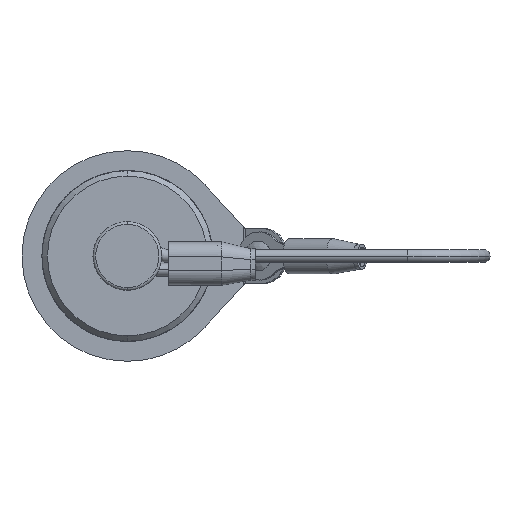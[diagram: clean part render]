
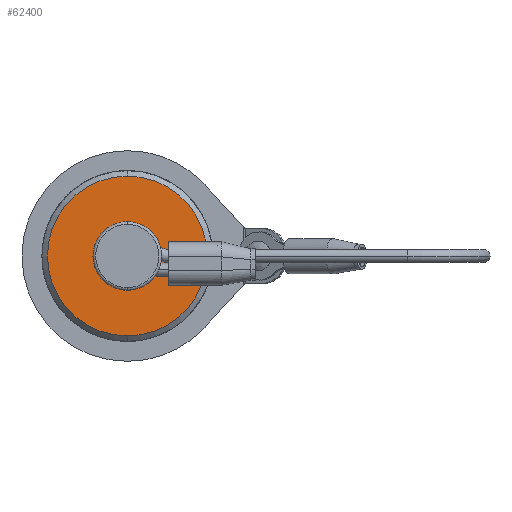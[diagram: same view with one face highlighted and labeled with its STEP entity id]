
A CAD part, left-side view. The second image highlights one B-rep face of the part: STEP entity #62400.
In plain terms, the highlighted planar face has unit normal (-1, 0, 0).
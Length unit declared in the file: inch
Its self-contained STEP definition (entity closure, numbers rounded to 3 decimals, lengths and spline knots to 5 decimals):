
#6622 = AXIS2_PLACEMENT_3D ( 'NONE', #63748, #22317, #46163 ) ;
#8765 = AXIS2_PLACEMENT_3D ( 'NONE', #36476, #30218, #54056 ) ;
#12456 = CARTESIAN_POINT ( 'NONE',  ( 0.25, 0., 0.25 ) ) ;
#13628 = CARTESIAN_POINT ( 'NONE',  ( 0.25, 0.5805, 0. ) ) ;
#14184 = CIRCLE ( 'NONE', #65365, 0.25 ) ;
#14334 = DIRECTION ( 'NONE',  ( 0., 0., -1. ) ) ;
#19435 = AXIS2_PLACEMENT_3D ( 'NONE', #13628, #23811, #54720 ) ;
#20607 = CARTESIAN_POINT ( 'NONE',  ( 0.25, 0., -0.25 ) ) ;
#20931 = DIRECTION ( 'NONE',  ( 1., 0., 0. ) ) ;
#22317 = DIRECTION ( 'NONE',  ( 1., 0., 0. ) ) ;
#23363 = ORIENTED_EDGE ( 'NONE', *, *, #37333, .F. ) ;
#23811 = DIRECTION ( 'NONE',  ( -1., 0., 0. ) ) ;
#25361 = FACE_OUTER_BOUND ( 'NONE', #64044, .T. ) ;
#29636 = CARTESIAN_POINT ( 'NONE',  ( 0.25, 0., 0. ) ) ;
#30143 = VERTEX_POINT ( 'NONE', #12456 ) ;
#30218 = DIRECTION ( 'NONE',  ( 1., 0., 0. ) ) ;
#30623 = EDGE_CURVE ( 'NONE', #30143, #39035, #14184, .T. ) ;
#32677 = CARTESIAN_POINT ( 'NONE',  ( 0.25, 0., 0. ) ) ;
#36323 = CIRCLE ( 'NONE', #57523, 0.25 ) ;
#36476 = CARTESIAN_POINT ( 'NONE',  ( 0.25, 0., 0. ) ) ;
#37333 = EDGE_CURVE ( 'NONE', #39831, #53462, #58713, .T. ) ;
#39035 = VERTEX_POINT ( 'NONE', #20607 ) ;
#39831 = VERTEX_POINT ( 'NONE', #56325 ) ;
#41815 = PLANE ( 'NONE',  #19435 ) ;
#45109 = ORIENTED_EDGE ( 'NONE', *, *, #30623, .T. ) ;
#46163 = DIRECTION ( 'NONE',  ( 0., 0., -1. ) ) ;
#48532 = ORIENTED_EDGE ( 'NONE', *, *, #57331, .F. ) ;
#51031 = DIRECTION ( 'NONE',  ( 0., 0., -1. ) ) ;
#53185 = EDGE_CURVE ( 'NONE', #39035, #30143, #36323, .T. ) ;
#53462 = VERTEX_POINT ( 'NONE', #63939 ) ;
#53468 = DIRECTION ( 'NONE',  ( 1., 0., 0. ) ) ;
#54056 = DIRECTION ( 'NONE',  ( 0., 0., -1. ) ) ;
#54720 = DIRECTION ( 'NONE',  ( 0., 0., 1. ) ) ;
#55305 = CIRCLE ( 'NONE', #6622, 0.5805 ) ;
#56325 = CARTESIAN_POINT ( 'NONE',  ( 0.25, 0., -0.5805 ) ) ;
#57331 = EDGE_CURVE ( 'NONE', #53462, #39831, #55305, .T. ) ;
#57523 = AXIS2_PLACEMENT_3D ( 'NONE', #29636, #53468, #14334 ) ;
#58713 = CIRCLE ( 'NONE', #8765, 0.5805 ) ;
#61076 = ORIENTED_EDGE ( 'NONE', *, *, #53185, .T. ) ;
#61771 = EDGE_LOOP ( 'NONE', ( #61076, #45109 ) ) ;
#62400 = ADVANCED_FACE ( 'NONE', ( #77362, #25361 ), #41815, .T. ) ;
#63748 = CARTESIAN_POINT ( 'NONE',  ( 0.25, 0., 0. ) ) ;
#63939 = CARTESIAN_POINT ( 'NONE',  ( 0.25, 0., 0.5805 ) ) ;
#64044 = EDGE_LOOP ( 'NONE', ( #23363, #48532 ) ) ;
#65365 = AXIS2_PLACEMENT_3D ( 'NONE', #32677, #20931, #51031 ) ;
#77362 = FACE_BOUND ( 'NONE', #61771, .T. ) ;
